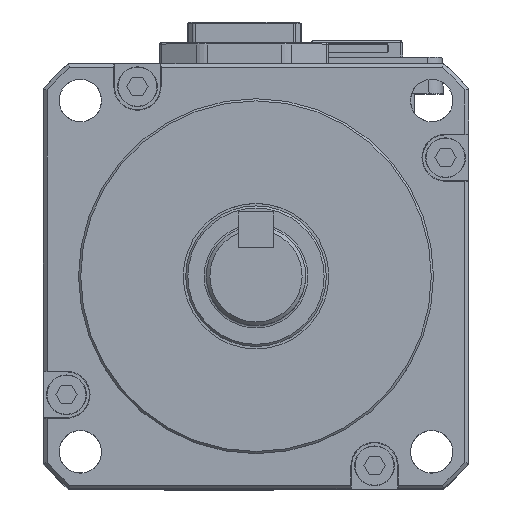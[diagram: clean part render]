
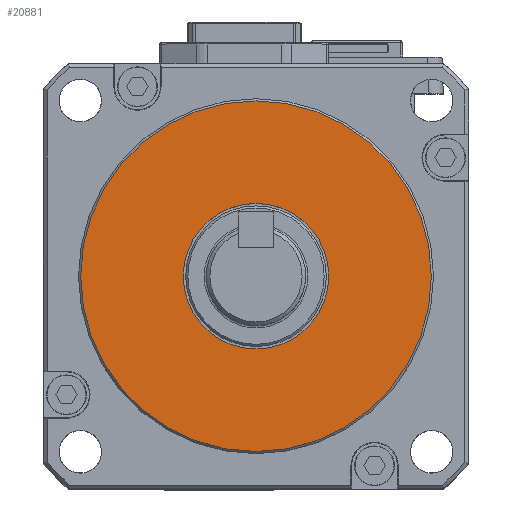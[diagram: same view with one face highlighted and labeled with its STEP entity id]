
A CAD part, top view. The second image highlights one B-rep face of the part: STEP entity #20881.
In plain terms, the highlighted planar face has unit normal (0, 0, 1).
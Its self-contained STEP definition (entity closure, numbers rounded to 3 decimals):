
#1363 = DIRECTION ( 'NONE',  ( 0., 0., 1. ) ) ;
#4208 = DIRECTION ( 'NONE',  ( 1., 0., 0. ) ) ;
#5175 = CARTESIAN_POINT ( 'NONE',  ( 0., 0., 10. ) ) ;
#5546 = DIRECTION ( 'NONE',  ( 0., 0., 1. ) ) ;
#6292 = ORIENTED_EDGE ( 'NONE', *, *, #9263, .F. ) ;
#9263 = EDGE_CURVE ( 'NONE', #53018, #53018, #58818, .T. ) ;
#19671 = ORIENTED_EDGE ( 'NONE', *, *, #30316, .T. ) ;
#20349 = EDGE_LOOP ( 'NONE', ( #6292 ) ) ;
#20881 = ADVANCED_FACE ( 'NONE', ( #50659, #26263 ), #42288, .T. ) ;
#26263 = FACE_BOUND ( 'NONE', #20349, .T. ) ;
#26650 = CARTESIAN_POINT ( 'NONE',  ( 24.7, 0., 10. ) ) ;
#27808 = EDGE_LOOP ( 'NONE', ( #19671 ) ) ;
#30316 = EDGE_CURVE ( 'NONE', #31453, #31453, #60059, .T. ) ;
#31453 = VERTEX_POINT ( 'NONE', #26650 ) ;
#34519 = AXIS2_PLACEMENT_3D ( 'NONE', #52858, #62140, #4208 ) ;
#39614 = AXIS2_PLACEMENT_3D ( 'NONE', #49454, #5546, #40420 ) ;
#40420 = DIRECTION ( 'NONE',  ( 1., 0., 0. ) ) ;
#42288 = PLANE ( 'NONE',  #34519 ) ;
#43501 = AXIS2_PLACEMENT_3D ( 'NONE', #5175, #1363, #59269 ) ;
#49454 = CARTESIAN_POINT ( 'NONE',  ( 0., 0., 10. ) ) ;
#50659 = FACE_OUTER_BOUND ( 'NONE', #27808, .T. ) ;
#52858 = CARTESIAN_POINT ( 'NONE',  ( 0., 0., 10. ) ) ;
#53018 = VERTEX_POINT ( 'NONE', #58728 ) ;
#58728 = CARTESIAN_POINT ( 'NONE',  ( 10.25, 0., 10. ) ) ;
#58818 = CIRCLE ( 'NONE', #43501, 10.25 ) ;
#59269 = DIRECTION ( 'NONE',  ( 1., 0., 0. ) ) ;
#60059 = CIRCLE ( 'NONE', #39614, 24.7 ) ;
#62140 = DIRECTION ( 'NONE',  ( 0., 0., 1. ) ) ;
